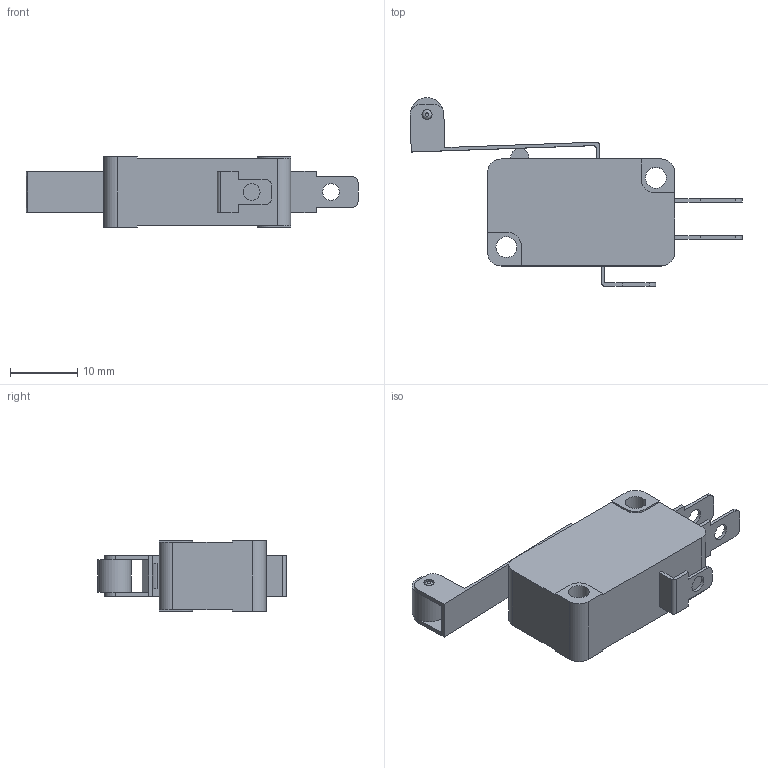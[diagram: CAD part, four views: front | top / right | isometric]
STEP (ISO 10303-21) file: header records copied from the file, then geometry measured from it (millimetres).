
FILE_DESCRIPTION(/* description */ (''),/* implementation_level */ '2;1');
FILE_NAME(/* name */ 'E:\Inventor 2016\제품 외형도\(완료) 리미트 스위치\소형 마이크로 스위치 (V형)\YS R2-15C.stp',/* time_stamp */ '2019-04-09T10:04:00+09:00',/* author */ ('Kim'),/* organization */ (''),/* preprocessor_version */ 'ST-DEVELOPER v16.1',/* originating_system */ 'Autodesk Inventor 2016',/* authorisation */ '');
FILE_SCHEMA (('AUTOMOTIVE_DESIGN { 1 0 10303 214 3 1 1 }'));
Length unit declared in the file: millimetre
Products named in the file (1): YS R2-15C
Bounding box: 49.32 x 28 x 10.5 mm (x, y, z)
Volume: 4542.1 mm3; surface area: 3140.7 mm2
Topology: 4 solids, 4 shells, 115 faces, 301 edges, 200 vertices
Faces by surface type: plane 81, cylinder 32, bspline 2
Full cylindrical faces by diameter (mm): 1.5 x4, 2.5 x3, 3.1 x2, 5 x1
Entity records: 3661 total; most frequent: CARTESIAN_POINT 663, DIRECTION 585, ORIENTED_EDGE 582, EDGE_CURVE 291, LINE 221, VECTOR 221, VERTEX_POINT 200, AXIS2_PLACEMENT_3D 182
